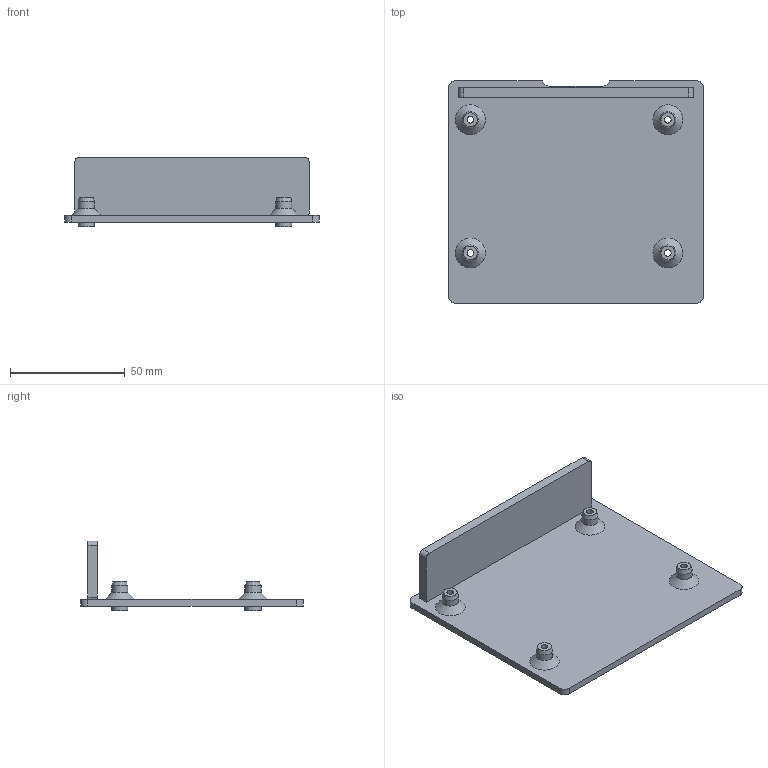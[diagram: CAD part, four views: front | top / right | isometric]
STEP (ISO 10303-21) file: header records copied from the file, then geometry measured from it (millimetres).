
FILE_DESCRIPTION(('FreeCAD Model'),'2;1');
FILE_NAME('Open CASCADE Shape Model','2026-10-18T22:43:14',('FreeCAD'),( 'FreeCAD'),'Open CASCADE STEP processor 7.8','FreeCAD','Unknown');
FILE_SCHEMA(('AUTOMOTIVE_DESIGN { 1 0 10303 214 1 1 1 1 }'));
Length unit declared in the file: millimetre
Products named in the file (1): Open CASCADE STEP translator 7.8 9
Bounding box: 111 x 97 x 30.3 mm (x, y, z)
Volume: 44037.7 mm3; surface area: 29108 mm2
Topology: 1 solids, 1 shells, 51 faces, 112 edges, 72 vertices
Faces by surface type: cylinder 22, plane 21, cone 8
Full cylindrical faces by diameter (mm): 2.9 x4, 7 x8
Entity records: 1440 total; most frequent: DIRECTION 268, CARTESIAN_POINT 236, ORIENTED_EDGE 224, EDGE_CURVE 112, AXIS2_PLACEMENT_3D 104, VERTEX_POINT 72, FACE_BOUND 68, EDGE_LOOP 68
